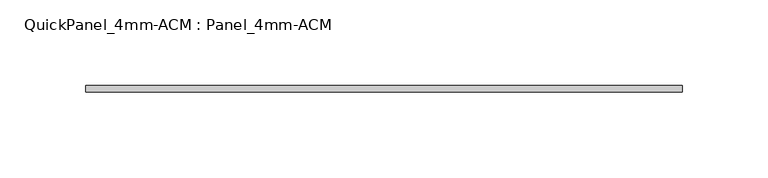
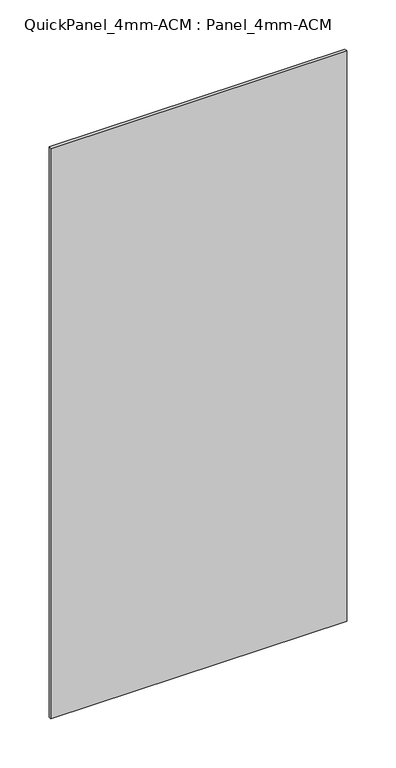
"""IFC4 building model written with IfcOpenShell, lengths in millimetres: plate geometry, QuickPanel_4mm-ACM : Panel_4mm-ACM."""

from ifc_helpers import new_model, si_unit, origin, origin_with_axes, place, context, project, spatial, polyline, outline, extrude, source, transform, mapped, element, save


def quickpanel_4mm_acm_panel_4mm_acm_35878509(model_context):
    return source(origin(), model_context, "Body", "SweptSolid", [
        extrude(outline(polyline([(-174.1963747, -6.096), (174.1963747, -6.096), (174.1963747, -9.906), (-174.1963747, -9.906), (-174.1963747, -6.096)])), origin_with_axes(), (0.0, 0.0, 1.0), 710.1039948),
    ])


if __name__ == "__main__":
    model = new_model("IFC4")
    model_context = context("Model", 3, world=origin())
    ifc_project = project(units=[si_unit("LENGTHUNIT", "METRE", prefix="MILLI")], contexts=[model_context])
    site = spatial("IfcSite", under=ifc_project)
    building = spatial("IfcBuilding", under=site)
    placement = place(None, origin())
    quickpanel_4mm_acm_panel_4mm_acm_shape = quickpanel_4mm_acm_panel_4mm_acm_35878509(model_context)
    element("IfcPlate", 1, ObjectType="QuickPanel_4mm-ACM : Panel_4mm-ACM", at=placement, inside=building, context=model_context, shape_type="MappedRepresentation", body=[
        mapped(quickpanel_4mm_acm_panel_4mm_acm_shape, transform((0.0, 0.0, 0.0), x_axis=(1.0, 0.0, 0.0), y_axis=(0.0, 1.0, 0.0), z_axis=(0.0, 0.0, 1.0))),
    ])
    save(model, "model.ifc")
